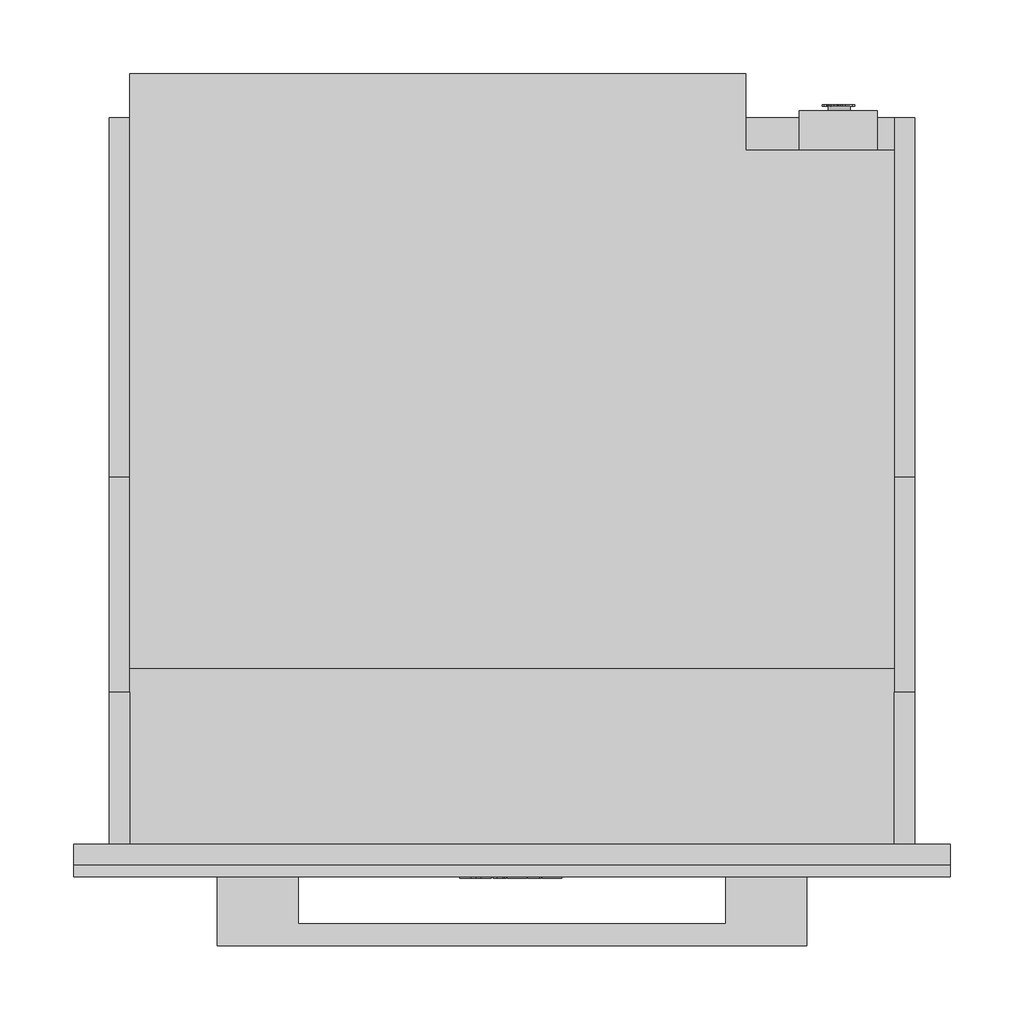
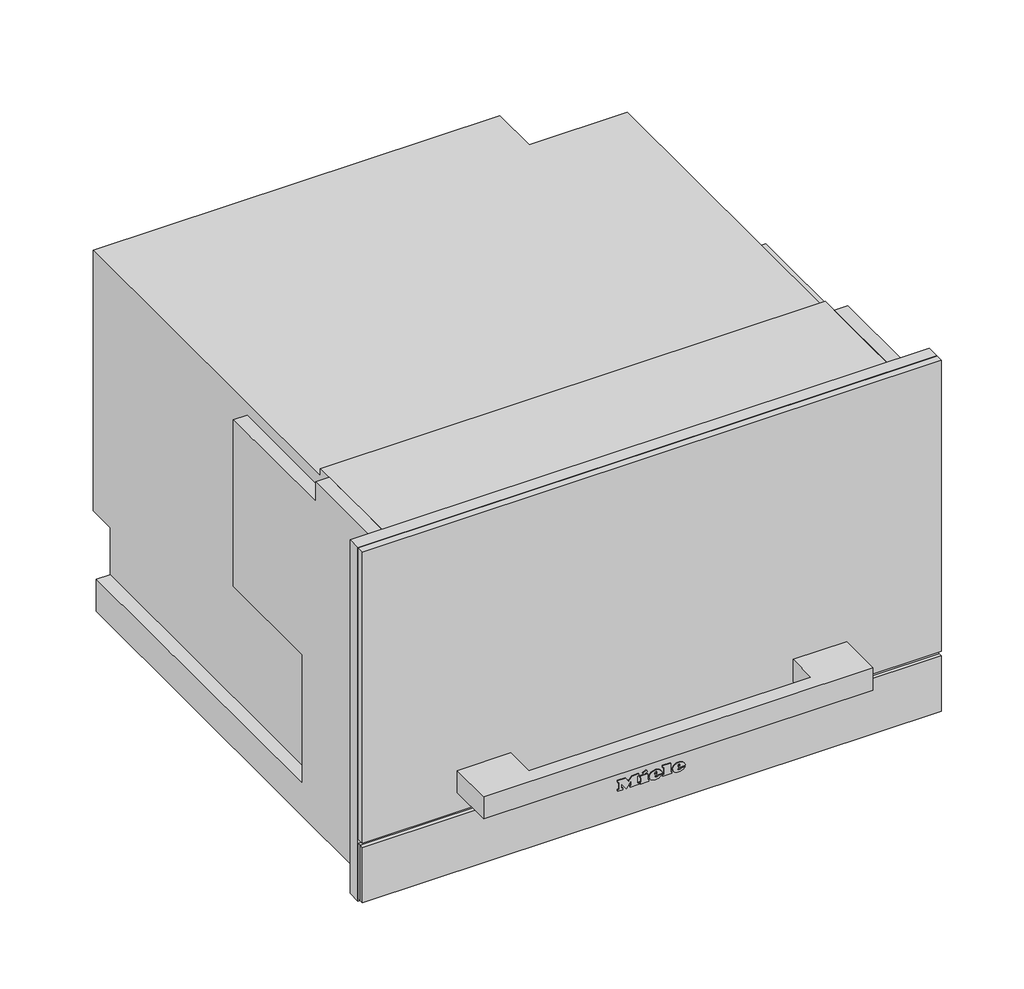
# Not in any storey: 1 proxy.
"""IFC4 building model written with IfcOpenShell, lengths in millimetres."""

import ifcopenshell
import ifcopenshell.guid

model = None  # the IFC model being written
_history = None  # IfcOwnerHistory: only IFC2X3 demands one
_inside = {}  # id of a spatial element -> (the spatial element, [elements in it])
_under = {}  # id of a project, library or spatial element -> (it, [spatial elements below it])
_declared = {}  # id of a project -> (the project, [libraries it declares])
_typed = {}  # id of a type object -> (the type object, [elements of that type])
_made_of = {}  # id of a material, layer set ... -> (it, [elements and type objects made of it])


def new_model(schema):
    """Start an empty IFC model of exactly this schema.

    Asked for "IFC4X3", IfcOpenShell would pick the latest addendum, in which some entities
    have other attributes; the version numbers below select the first issue.
    IFC2X3 requires an IfcOwnerHistory on every rooted entity: one is made here for all.
    """
    global model, _history
    if schema == "IFC4X3":
        model = ifcopenshell.file(schema_version=(4, 3, 0, 0))
    else:
        model = ifcopenshell.file(schema=schema)
    _inside.clear()
    _under.clear()
    _declared.clear()
    _typed.clear()
    _made_of.clear()
    _history = None
    if model.schema == "IFC2X3":
        org = make("IfcOrganization", Name="unknown")
        user = make(
            "IfcPersonAndOrganization",
            ThePerson=make("IfcPerson", FamilyName="unknown"),
            TheOrganization=org,
        )
        app = make(
            "IfcApplication",
            ApplicationDeveloper=org,
            Version="unknown",
            ApplicationFullName="unknown",
            ApplicationIdentifier="unknown",
        )
        _history = make(
            "IfcOwnerHistory",
            OwningUser=user,
            OwningApplication=app,
            ChangeAction="ADDED",
            CreationDate=0,
        )
    return model


def make(cls, **values):
    """One entity of the class cls with the attributes given. An attribute that is None is left unset."""
    return model.create_entity(
        cls, **{name: value for name, value in values.items() if value is not None}
    )


def rooted(cls, **values):
    """An entity with a GlobalId (a new one), such as an element, a storey or a relation."""
    return make(cls, GlobalId=ifcopenshell.guid.new(), OwnerHistory=_history, **values)


def si_unit(unit_type, name, prefix=None):
    """IfcSIUnit, for example si_unit("LENGTHUNIT", "METRE", prefix="MILLI")."""
    return make("IfcSIUnit", UnitType=unit_type, Prefix=prefix, Name=name)


def assignment(units):
    """IfcUnitAssignment: the units of a project."""
    return None if units is None else make("IfcUnitAssignment", Units=units)


def point(xyz):
    """IfcCartesianPoint."""
    return None if xyz is None else make("IfcCartesianPoint", Coordinates=xyz)


def direction(xyz):
    """IfcDirection."""
    return None if xyz is None else make("IfcDirection", DirectionRatios=xyz)


def frame(location, z_axis=None, x_axis=None):
    """IfcAxis2Placement3D, a coordinate frame: its origin and axes. An axis left out is left unset."""
    return make(
        "IfcAxis2Placement3D",
        Location=point(location),
        Axis=direction(z_axis),
        RefDirection=direction(x_axis),
    )


def frame_2d(location, x_axis=None):
    """IfcAxis2Placement2D, a coordinate frame in the plane: its origin and x axis."""
    return make(
        "IfcAxis2Placement2D", Location=point(location), RefDirection=direction(x_axis)
    )


def origin():
    """The frame at (0, 0, 0) with its axes left unset."""
    return frame((0.0, 0.0, 0.0))


def place(relative_to, where):
    """IfcLocalPlacement: puts the frame where relative to a parent placement (None: the world)."""
    return make(
        "IfcLocalPlacement", PlacementRelTo=relative_to, RelativePlacement=where
    )


def context(
    kind, dimensions, precision=None, world=None, true_north=None, identifier=None
):
    """IfcGeometricRepresentationContext, for example the 3D "Model" context."""
    return make(
        "IfcGeometricRepresentationContext",
        ContextIdentifier=identifier,
        ContextType=kind,
        CoordinateSpaceDimension=dimensions,
        Precision=precision,
        WorldCoordinateSystem=world,
        TrueNorth=true_north,
    )


def project(units=None, contexts=None):
    """IfcProject with its units and contexts."""
    return rooted(
        "IfcProject",
        Name="project",
        RepresentationContexts=contexts,
        UnitsInContext=assignment(units),
    )


def spatial(cls, under=None, at=None, **own):
    """A site, building, storey or space (cls), placed at a placement, below another one or the project."""
    s = rooted(cls, ObjectPlacement=at, **own)
    if under is not None:
        _under.setdefault(under.id(), (under, []))[1].append(s)
    return s


def polyline(points):
    """IfcPolyline through the points."""
    return make("IfcPolyline", Points=[point(p) for p in points])


def circle_curve(where, radius):
    """IfcCircle in the frame where."""
    return make("IfcCircle", Position=where, Radius=radius)


def ellipse_curve(where, semi_axis1, semi_axis2):
    """IfcEllipse in the frame where."""
    return make(
        "IfcEllipse", Position=where, SemiAxis1=semi_axis1, SemiAxis2=semi_axis2
    )


def trimmed(basis, trim1, trim2, sense, master):
    """IfcTrimmedCurve: the piece of a basis curve between two trims."""
    return make(
        "IfcTrimmedCurve",
        BasisCurve=basis,
        Trim1=trim1,
        Trim2=trim2,
        SenseAgreement=sense,
        MasterRepresentation=master,
    )


def segment(curve, same_sense, transition):
    """IfcCompositeCurveSegment."""
    return make(
        "IfcCompositeCurveSegment",
        Transition=transition,
        SameSense=same_sense,
        ParentCurve=curve,
    )


def composite_curve(segments, self_intersect=None):
    """IfcCompositeCurve: segments joined end to end."""
    return make("IfcCompositeCurve", Segments=segments, SelfIntersect=self_intersect)


def outline(outer, holes=None, kind="AREA"):
    """IfcArbitraryClosedProfileDef: a profile drawn as a closed curve; with holes, ...WithVoids."""
    if holes is None:
        return make("IfcArbitraryClosedProfileDef", ProfileType=kind, OuterCurve=outer)
    return make(
        "IfcArbitraryProfileDefWithVoids",
        ProfileType=kind,
        OuterCurve=outer,
        InnerCurves=holes,
    )


def extrude(swept, where, along, depth):
    """IfcExtrudedAreaSolid: the profile swept, set in the frame where, extruded along a direction by depth."""
    return make(
        "IfcExtrudedAreaSolid",
        SweptArea=swept,
        Position=where,
        ExtrudedDirection=direction(along),
        Depth=depth,
    )


def faces_of(points, faces, orient=None, outer=None):
    """IfcFace entities. A face is a list of loops; a loop is a list of indices into points, from 0.

    orient and outer hold one flag for each loop. By default every Orientation is true, the
    first loop of a face is its IfcFaceOuterBound and the others are IfcFaceBound.
    """
    made = []
    for i, loops in enumerate(faces):
        bounds = []
        for j, loop in enumerate(loops):
            is_outer = j == 0 if outer is None else outer[i][j]
            bounds.append(
                make(
                    "IfcFaceOuterBound" if is_outer else "IfcFaceBound",
                    Bound=make("IfcPolyLoop", Polygon=[points[k] for k in loop]),
                    Orientation=True if orient is None else orient[i][j],
                )
            )
        made.append(make("IfcFace", Bounds=bounds))
    return made


def faceted_brep(points, faces, orient=None, outer=None, voids=None):
    """IfcFacetedBrep: a solid bounded by flat faces; with voids (closed shells), ...WithVoids."""
    shared = [point(p) for p in points]
    hull = make("IfcClosedShell", CfsFaces=faces_of(shared, faces, orient, outer))
    if voids is None:
        return make("IfcFacetedBrep", Outer=hull)
    return make(
        "IfcFacetedBrepWithVoids",
        Outer=hull,
        Voids=[
            make(cls, CfsFaces=faces_of(shared, fs, o, b)) for cls, fs, o, b in voids
        ],
    )


def shape(context_of_items, identifier, shape_type, items):
    """IfcShapeRepresentation: the items that make up one representation, for example the "Body"."""
    return make(
        "IfcShapeRepresentation",
        ContextOfItems=context_of_items,
        RepresentationIdentifier=identifier,
        RepresentationType=shape_type,
        Items=items,
    )


def source(mapping_origin, context_of_items, identifier, shape_type, items):
    """IfcRepresentationMap: a shape defined once, which mapped items show again and again."""
    return make(
        "IfcRepresentationMap",
        MappingOrigin=mapping_origin,
        MappedRepresentation=shape(context_of_items, identifier, shape_type, items),
    )


def transform(
    local_origin,
    x_axis=None,
    y_axis=None,
    z_axis=None,
    scale=None,
    scale2=None,
    scale3=None,
    uniform=True,
):
    """IfcCartesianTransformationOperator3D, or its non-uniform kind. x_axis, y_axis, z_axis: its Axis1, 2, 3."""
    if uniform:
        return make(
            "IfcCartesianTransformationOperator3D",
            Axis1=direction(x_axis),
            Axis2=direction(y_axis),
            LocalOrigin=point(local_origin),
            Scale=scale,
            Axis3=direction(z_axis),
        )
    return make(
        "IfcCartesianTransformationOperator3DnonUniform",
        Axis1=direction(x_axis),
        Axis2=direction(y_axis),
        LocalOrigin=point(local_origin),
        Scale=scale,
        Axis3=direction(z_axis),
        Scale2=scale2,
        Scale3=scale3,
    )


def mapped(mapping_source, mapping_target):
    """IfcMappedItem: shows the shape of a source again, moved by a transform."""
    return make(
        "IfcMappedItem", MappingSource=mapping_source, MappingTarget=mapping_target
    )


def made_of(thing, what):
    """Note that an element or type object is made of a material, layer set ...; save() writes the relation."""
    if what is not None:
        _made_of.setdefault(what.id(), (what, []))[1].append(thing)
    return thing


def element(
    cls,
    number,
    at=None,
    inside=None,
    cuts=None,
    type_object=None,
    material=None,
    context=None,
    identifier="Body",
    shape_type=None,
    held_by="IfcProductDefinitionShape",
    body=None,
    shapes=None,
    **own,
):
    """One element of the class cls, such as IfcWall. Its Tag is "e" and its number.

    at: its placement. inside: the storey or other place that contains it. cuts: it is an
    opening in that element (IfcRelVoidsElement). A single representation is given by context,
    identifier, shape_type and body (its items); several are given by shapes. held_by: the class
    of the entity that holds the representations. save() writes the other relations.
    """
    e = rooted(cls, Tag="e%d" % number, ObjectPlacement=at, **own)
    if body is not None:
        shapes = [shape(context, identifier, shape_type, body)]
    if shapes is not None:
        e.Representation = make(held_by, Representations=shapes)
    if inside is not None:
        _inside.setdefault(inside.id(), (inside, []))[1].append(e)
    if cuts is not None:
        rooted(
            "IfcRelVoidsElement", RelatingBuildingElement=cuts, RelatedOpeningElement=e
        )
    if type_object is not None:
        _typed.setdefault(type_object.id(), (type_object, []))[1].append(e)
    return made_of(e, material)


def aggregate(whole, parts):
    """IfcRelAggregates: a whole, such as a stair, and the parts it consists of."""
    return rooted("IfcRelAggregates", RelatingObject=whole, RelatedObjects=parts)


def save(model, path):
    """Write the relations noted so far, then the file.

    IfcRelAggregates (storeys below a building ...), IfcRelContainedInSpatialStructure (elements
    in a storey), IfcRelDefinesByType, IfcRelAssociatesMaterial and IfcRelDeclares: one each for
    every whole, place, type object, material and project.
    """
    for whole, parts in _under.values():
        aggregate(whole, parts)
    for where, things in _inside.values():
        rooted(
            "IfcRelContainedInSpatialStructure",
            RelatedElements=things,
            RelatingStructure=where,
        )
    for kind, things in _typed.values():
        rooted("IfcRelDefinesByType", RelatedObjects=things, RelatingType=kind)
    for what, things in _made_of.values():
        rooted("IfcRelAssociatesMaterial", RelatedObjects=things, RelatingMaterial=what)
    for by, libraries in _declared.values():
        rooted("IfcRelDeclares", RelatingContext=by, RelatedDefinitions=libraries)
    model.write(path)


def plane_surface(at):
    """IfcPlane: the flat surface through the origin of the frame at, square to its z axis."""
    return make("IfcPlane", Position=at)


def cylinder_surface(at, radius):
    """IfcCylindricalSurface: all points at the distance radius from the z axis of the frame at."""
    return make("IfcCylindricalSurface", Position=at, Radius=radius)


def revolved_surface(curve, axis_point, axis_direction):
    """IfcSurfaceOfRevolution: the curve turned about the line through axis_point along axis_direction."""
    return make(
        "IfcSurfaceOfRevolution",
        SweptCurve=make("IfcArbitraryOpenProfileDef", ProfileType="CURVE", Curve=curve),
        AxisPosition=make("IfcAxis1Placement", Location=point(axis_point), Axis=direction(axis_direction)),
    )


def extruded_surface(curve, direction_of_extrusion, depth):
    """IfcSurfaceOfLinearExtrusion: the curve pushed along a direction by depth."""
    return make(
        "IfcSurfaceOfLinearExtrusion",
        SweptCurve=make("IfcArbitraryOpenProfileDef", ProfileType="CURVE", Curve=curve),
        ExtrudedDirection=direction(direction_of_extrusion),
        Depth=depth,
    )


def advanced_brep(points, edges, surfaces, faces):
    """IfcAdvancedBrep: a solid bounded by faces that lie on surfaces and meet in shared edges.

    An edge is (start, end): straight between two places in points (the first is 0);
    or (start, end, curve); or (start, end, curve, False) where it runs against its curve.
    A face is (place in surfaces, loops), or (place, loops, False) where it looks against
    its surface's normal. A loop lists edges by number (the first is 1), with a minus sign
    where the edge is run from its end to its start. The first loop is the outer one.
    """
    corners = [point(p) for p in points]
    vertices = [make("IfcVertexPoint", VertexGeometry=c) for c in corners]
    made = []
    for start, end, *more in edges:
        made.append(
            make(
                "IfcEdgeCurve",
                EdgeStart=vertices[start],
                EdgeEnd=vertices[end],
                EdgeGeometry=more[0] if more else make("IfcPolyline", Points=[corners[start], corners[end]]),
                SameSense=more[1] if len(more) > 1 else True,
            )
        )
    hull = []
    for where, loops, *sense in faces:
        bounds = []
        for j, loop in enumerate(loops):
            ring = [make("IfcOrientedEdge", EdgeElement=made[abs(k) - 1], Orientation=k > 0) for k in loop]
            bounds.append(
                make(
                    "IfcFaceOuterBound" if j == 0 else "IfcFaceBound",
                    Bound=make("IfcEdgeLoop", EdgeList=ring),
                    Orientation=True,
                )
            )
        hull.append(make("IfcAdvancedFace", Bounds=bounds, FaceSurface=surfaces[where], SameSense=sense[0] if sense else True))
    return make("IfcAdvancedBrep", Outer=make("IfcClosedShell", CfsFaces=hull))


def specialty_equipment_248093d5(model_context):
    return source(origin(), model_context, "Body", "SolidModel", [
        advanced_brep(
        [(26.2998, -23.0, 36.7018), (26.2998, -23.0, 37.8532), (33.9264, -23.0, 37.8532), (20.6568, -23.0, 37.8532), (23.7918, -23.0, 34.0), (33.7326, -23.0, 36.7018), (30.2898, -23.0, 36.7018), (27.5766, -23.0, 35.425), (26.2998, -23.0, 39.3124), (26.2998, -23.0, 40.555), (28.2492, -23.0, 40.555), (28.2492, -23.0, 39.3124), (26.2998, -22.0, 36.7018), (27.5766, -22.0, 35.425), (30.2898, -22.0, 36.7018), (33.7326, -22.0, 36.7018), (23.7918, -22.0, 34.0), (20.6568, -22.0, 37.8532), (33.9264, -22.0, 37.8532), (26.2998, -22.0, 37.8532), (26.2998, -22.0, 39.3124), (28.2492, -22.0, 39.3124), (28.2492, -22.0, 40.555), (26.2998, -22.0, 40.555)],
        [
            (0, 1),
            (1, 2),
            (2, 3, ellipse_curve(frame((27.2916, -23.0, 37.8532), z_axis=(0.0, -1.0, 0.0), x_axis=(-1.0, 0.0, 0.0)), 6.6348, 5.4834)),
            (3, 4, circle_curve(frame((25.0686622, -23.0, 38.2408), z_axis=(0.0, -1.0, 0.0), x_axis=(0.0, 0.0, -1.0)), 4.4288556)),
            (4, 5, circle_curve(frame((27.1587808, -23.0, 41.2504), z_axis=(0.0, -1.0, 0.0), x_axis=(0.0, 0.0, -1.0)), 7.9940516)),
            (5, 6),
            (6, 7, circle_curve(frame((28.1338588, -23.0, 37.762), z_axis=(0.0, 1.0, 0.0), x_axis=(0.0, 0.0, -1.0)), 2.4025208)),
            (7, 0, circle_curve(frame((27.5766, -23.0, 36.7018), z_axis=(0.0, 1.0, 0.0), x_axis=(0.0, 0.0, -1.0)), 1.2768)),
            (8, 9),
            (9, 10, circle_curve(frame((27.2745, -23.0, 40.555), z_axis=(0.0, 1.0, 0.0), x_axis=(0.0, 0.0, -1.0)), 0.9747)),
            (10, 11),
            (11, 8),
            (12, 13, circle_curve(frame((27.5766, -22.0, 36.7018), z_axis=(0.0, -1.0, 0.0), x_axis=(0.0, 0.0, -1.0)), 1.2768)),
            (13, 14, circle_curve(frame((28.1338588, -22.0, 37.762), z_axis=(0.0, -1.0, 0.0), x_axis=(0.0, 0.0, -1.0)), 2.4025208)),
            (14, 15),
            (15, 16, circle_curve(frame((27.1587808, -22.0, 41.2504), z_axis=(0.0, 1.0, 0.0), x_axis=(0.0, 0.0, -1.0)), 7.9940516)),
            (16, 17, circle_curve(frame((25.0686622, -22.0, 38.2408), z_axis=(0.0, 1.0, 0.0), x_axis=(0.0, 0.0, -1.0)), 4.4288556)),
            (17, 18, ellipse_curve(frame((27.2916, -22.0, 37.8532), z_axis=(0.0, 1.0, 0.0), x_axis=(-1.0, 0.0, 0.0)), 6.6348, 5.4834)),
            (18, 19),
            (19, 12),
            (20, 21),
            (21, 22),
            (22, 23, circle_curve(frame((27.2745, -22.0, 40.555), z_axis=(0.0, -1.0, 0.0), x_axis=(0.0, 0.0, -1.0)), 0.9747)),
            (23, 20),
            (0, 12),
            (19, 1),
            (18, 2),
            (5, 15),
            (14, 6),
            (17, 3),
            (13, 7),
            (16, 4),
            (8, 20),
            (23, 9),
            (22, 10),
            (21, 11),
        ],
        [
            plane_surface(frame((26.2998, -23.0, 37.8532), z_axis=(0.0, -1.0, 0.0), x_axis=(0.0, 0.0, 1.0))),
            plane_surface(frame((26.2998, -22.0, 37.8532), z_axis=(0.0, 1.0, 0.0), x_axis=(0.0, 0.0, -1.0))),
            plane_surface(frame((26.2998, -23.0, 36.7018), z_axis=(1.0, 0.0, 0.0), x_axis=(0.0, 1.0, 0.0))),
            plane_surface(frame((26.2998, -23.0, 37.8532), z_axis=(0.0, 0.0, -1.0), x_axis=(0.0, 1.0, 0.0))),
            plane_surface(frame((33.7326, -23.0, 36.7018), z_axis=(0.0, 0.0, 1.0), x_axis=(0.0, 1.0, 0.0))),
            extruded_surface(trimmed(ellipse_curve(frame((27.2916, -21.0, 37.8532), z_axis=(0.0, -1.0, 0.0), x_axis=(-1.0, 0.0, 0.0)), 6.6348, 5.4834), [point((33.9264, -21.0, 37.8532))], [point((20.6568, -21.0, 37.8532))], True, "CARTESIAN"), (0.0, -1.0, 0.0), 1.0),
            revolved_surface(polyline([(28.1338588, -22.0, 35.3594792), (28.1338588, -23.0, 35.3594792)]), (28.1338588, -22.0, 37.762), (0.0, 1.0, 0.0)),
            revolved_surface(polyline([(27.5766, -22.0, 35.425), (27.5766, -23.0, 35.425)]), (27.5766, -22.0, 36.7018), (0.0, 1.0, 0.0)),
            cylinder_surface(frame((25.0686622, -22.0, 38.2408), z_axis=(0.0, -1.0, 0.0), x_axis=(0.0, 0.0, -1.0)), 4.4288556),
            cylinder_surface(frame((27.1587808, -22.0, 41.2504), z_axis=(0.0, -1.0, 0.0), x_axis=(0.0, 0.0, -1.0)), 7.9940516),
            plane_surface(frame((26.2998, -23.0, 39.3124), z_axis=(1.0, 0.0, 0.0), x_axis=(0.0, 1.0, 0.0))),
            revolved_surface(polyline([(27.2745, -22.0, 39.5803), (27.2745, -23.0, 39.5803)]), (27.2745, -22.0, 40.555), (0.0, 1.0, 0.0)),
            plane_surface(frame((28.2492, -23.0, 40.555), z_axis=(-1.0, 0.0, 0.0), x_axis=(0.0, 1.0, 0.0))),
            plane_surface(frame((28.2492, -23.0, 39.3124), z_axis=(0.0, 0.0, 1.0), x_axis=(0.0, 1.0, 0.0))),
        ],
        [
            (0, [[1, 2, 3, 4, 5, 6, 7, 8], [9, 10, 11, 12]]),
            (1, [[13, 14, 15, 16, 17, 18, 19, 20], [21, 22, 23, 24]]),
            (2, [[-1, 25, -20, 26]]),
            (3, [[-2, -26, -19, 27]]),
            (4, [[-6, 28, -15, 29]]),
            (5, [[-3, -27, -18, 30]]),
            (6, [[-7, -29, -14, 31]]),
            (7, [[-8, -31, -13, -25]]),
            (8, [[-4, -30, -17, 32]]),
            (9, [[-5, -32, -16, -28]]),
            (10, [[-9, 33, -24, 34]]),
            (11, [[-10, -34, -23, 35]]),
            (12, [[-11, -35, -22, 36]]),
            (13, [[-12, -36, -21, -33]]),
        ],
    ),
        advanced_brep(
        [(2.508, -23.0, 36.7018), (2.508, -23.0, 37.8532), (10.1346, -23.0, 37.8532), (-3.135, -23.0, 37.8532), (0.0, -23.0, 34.0), (9.9408, -23.0, 36.7018), (6.498, -23.0, 36.7018), (3.7848, -23.0, 35.425), (2.508, -23.0, 39.3124), (2.508, -23.0, 40.555), (4.4574, -23.0, 40.555), (4.4574, -23.0, 39.3124), (2.508, -22.0, 36.7018), (3.7848, -22.0, 35.425), (6.498, -22.0, 36.7018), (9.9408, -22.0, 36.7018), (0.0, -22.0, 34.0), (-3.135, -22.0, 37.8532), (10.1346, -22.0, 37.8532), (2.508, -22.0, 37.8532), (2.508, -22.0, 39.3124), (4.4574, -22.0, 39.3124), (4.4574, -22.0, 40.555), (2.508, -22.0, 40.555)],
        [
            (0, 1),
            (1, 2),
            (2, 3, ellipse_curve(frame((3.4998, -23.0, 37.8532), z_axis=(0.0, -1.0, 0.0), x_axis=(-1.0, 0.0, 0.0)), 6.6348, 5.4834)),
            (3, 4, circle_curve(frame((1.2768622, -23.0, 38.2408), z_axis=(0.0, -1.0, 0.0), x_axis=(0.0, 0.0, -1.0)), 4.4288556)),
            (4, 5, circle_curve(frame((3.3669808, -23.0, 41.2504), z_axis=(0.0, -1.0, 0.0), x_axis=(0.0, 0.0, -1.0)), 7.9940516)),
            (5, 6),
            (6, 7, circle_curve(frame((4.3420588, -23.0, 37.762), z_axis=(0.0, 1.0, 0.0), x_axis=(0.0, 0.0, -1.0)), 2.4025208)),
            (7, 0, circle_curve(frame((3.7848, -23.0, 36.7018), z_axis=(0.0, 1.0, 0.0), x_axis=(0.0, 0.0, -1.0)), 1.2768)),
            (8, 9),
            (9, 10, circle_curve(frame((3.4827, -23.0, 40.555), z_axis=(0.0, 1.0, 0.0), x_axis=(0.0, 0.0, -1.0)), 0.9747)),
            (10, 11),
            (11, 8),
            (12, 13, circle_curve(frame((3.7848, -22.0, 36.7018), z_axis=(0.0, -1.0, 0.0), x_axis=(0.0, 0.0, -1.0)), 1.2768)),
            (13, 14, circle_curve(frame((4.3420588, -22.0, 37.762), z_axis=(0.0, -1.0, 0.0), x_axis=(0.0, 0.0, -1.0)), 2.4025208)),
            (14, 15),
            (15, 16, circle_curve(frame((3.3669808, -22.0, 41.2504), z_axis=(0.0, 1.0, 0.0), x_axis=(0.0, 0.0, -1.0)), 7.9940516)),
            (16, 17, circle_curve(frame((1.2768622, -22.0, 38.2408), z_axis=(0.0, 1.0, 0.0), x_axis=(0.0, 0.0, -1.0)), 4.4288556)),
            (17, 18, ellipse_curve(frame((3.4998, -22.0, 37.8532), z_axis=(0.0, 1.0, 0.0), x_axis=(-1.0, 0.0, 0.0)), 6.6348, 5.4834)),
            (18, 19),
            (19, 12),
            (20, 21),
            (21, 22),
            (22, 23, circle_curve(frame((3.4827, -22.0, 40.555), z_axis=(0.0, -1.0, 0.0), x_axis=(0.0, 0.0, -1.0)), 0.9747)),
            (23, 20),
            (0, 12),
            (19, 1),
            (18, 2),
            (5, 15),
            (14, 6),
            (17, 3),
            (13, 7),
            (16, 4),
            (8, 20),
            (23, 9),
            (22, 10),
            (21, 11),
        ],
        [
            plane_surface(frame((2.508, -23.0, 37.8532), z_axis=(0.0, -1.0, 0.0), x_axis=(0.0, 0.0, 1.0))),
            plane_surface(frame((2.508, -22.0, 37.8532), z_axis=(0.0, 1.0, 0.0), x_axis=(0.0, 0.0, -1.0))),
            plane_surface(frame((2.508, -23.0, 36.7018), z_axis=(1.0, 0.0, 0.0), x_axis=(0.0, 1.0, 0.0))),
            plane_surface(frame((2.508, -23.0, 37.8532), z_axis=(0.0, 0.0, -1.0), x_axis=(0.0, 1.0, 0.0))),
            plane_surface(frame((9.9408, -23.0, 36.7018), z_axis=(0.0, 0.0, 1.0), x_axis=(0.0, 1.0, 0.0))),
            extruded_surface(trimmed(ellipse_curve(frame((3.4998, -21.0, 37.8532), z_axis=(0.0, -1.0, 0.0), x_axis=(-1.0, 0.0, 0.0)), 6.6348, 5.4834), [point((10.1346, -21.0, 37.8532))], [point((-3.135, -21.0, 37.8532))], True, "CARTESIAN"), (0.0, -1.0, 0.0), 1.0),
            revolved_surface(polyline([(4.3420588, -22.0, 35.3594792), (4.3420588, -23.0, 35.3594792)]), (4.3420588, -22.0, 37.762), (0.0, 1.0, 0.0)),
            revolved_surface(polyline([(3.7848, -22.0, 35.425), (3.7848, -23.0, 35.425)]), (3.7848, -22.0, 36.7018), (0.0, 1.0, 0.0)),
            cylinder_surface(frame((1.2768622, -22.0, 38.2408), z_axis=(0.0, -1.0, 0.0), x_axis=(0.0, 0.0, -1.0)), 4.4288556),
            cylinder_surface(frame((3.3669808, -22.0, 41.2504), z_axis=(0.0, -1.0, 0.0), x_axis=(0.0, 0.0, -1.0)), 7.9940516),
            plane_surface(frame((2.508, -23.0, 39.3124), z_axis=(1.0, 0.0, 0.0), x_axis=(0.0, 1.0, 0.0))),
            revolved_surface(polyline([(3.4827, -22.0, 39.5803), (3.4827, -23.0, 39.5803)]), (3.4827, -22.0, 40.555), (0.0, 1.0, 0.0)),
            plane_surface(frame((4.4574, -23.0, 40.555), z_axis=(-1.0, 0.0, 0.0), x_axis=(0.0, 1.0, 0.0))),
            plane_surface(frame((4.4574, -23.0, 39.3124), z_axis=(0.0, 0.0, 1.0), x_axis=(0.0, 1.0, 0.0))),
        ],
        [
            (0, [[1, 2, 3, 4, 5, 6, 7, 8], [9, 10, 11, 12]]),
            (1, [[13, 14, 15, 16, 17, 18, 19, 20], [21, 22, 23, 24]]),
            (2, [[-1, 25, -20, 26]]),
            (3, [[-2, -26, -19, 27]]),
            (4, [[-6, 28, -15, 29]]),
            (5, [[-3, -27, -18, 30]]),
            (6, [[-7, -29, -14, 31]]),
            (7, [[-8, -31, -13, -25]]),
            (8, [[-4, -30, -17, 32]]),
            (9, [[-5, -32, -16, -28]]),
            (10, [[-9, 33, -24, 34]]),
            (11, [[-10, -34, -23, 35]]),
            (12, [[-11, -35, -22, 36]]),
            (13, [[-12, -36, -21, -33]]),
        ],
    ),
        extrude(outline(polyline([(44.7274, -9.9522), (42.8806, -9.0858), (44.6818, -5.2212), (46.5286, -6.0762), (44.7274, -9.9522)])), frame((0.0, -23.0, 0.0), z_axis=(0.0, 1.0, 0.0), x_axis=(0.0, 0.0, 1.0)), (0.0, 0.0, 1.0), 1.0),
        extrude(outline(polyline([(42.6298, -12.768), (40.5892, -12.768), (40.5892, -11.4114), (35.9152, -11.4114), (35.9152, -12.768), (34.0, -12.768), (34.0, -3.7734), (35.9152, -3.7734), (35.9152, -5.0958), (42.6298, -5.0958), (42.6298, -12.768)])), frame((0.0, -23.0, 0.0), z_axis=(0.0, 1.0, 0.0), x_axis=(0.0, 0.0, 1.0)), (0.0, 0.0, 1.0), 1.0),
        extrude(outline(polyline([(43.5418, 10.773), (43.5418, 12.141), (35.9152, 12.141), (35.9152, 10.773), (34.0, 10.773), (34.0, 20.0184), (35.9152, 20.0184), (35.9152, 18.6162), (45.4, 18.6162), (45.4, 10.773), (43.5418, 10.773)])), frame((0.0, -23.0, 0.0), z_axis=(0.0, 1.0, 0.0), x_axis=(0.0, 0.0, 1.0)), (0.0, 0.0, 1.0), 1.0),
        extrude(outline(polyline([(43.5418, -35.4882), (43.5418, -34.1088), (35.9152, -34.1088), (35.9152, -35.4882), (34.0, -35.4882), (34.0, -30.4722), (35.9152, -30.4722), (35.9152, -31.8402), (40.7429247, -31.8402), (34.0, -26.7444), (40.9402223, -21.6258), (35.9152, -21.6258), (35.9152, -23.028), (34.0, -23.028), (34.0, -13.9308), (35.9152, -13.9308), (35.9152, -15.3786), (43.5418, -15.3786), (43.5418, -13.9308), (45.4, -13.9308), (45.4, -20.8734), (41.125, -24.2022), (45.4, -27.5424), (45.4, -35.4882), (43.5418, -35.4882)])), frame((0.0, -23.0, 0.0), z_axis=(0.0, 1.0, 0.0), x_axis=(0.0, 0.0, 1.0)), (0.0, 0.0, 1.0), 1.0),
        extrude(outline(polyline([(385.0, 297.5), (385.0, -297.5), (1.0, -297.5), (1.0, 297.5), (385.0, 297.5)]), holes=[polyline([(376.0, 271.5), (55.0, 271.5), (55.0, -271.5), (376.0, -271.5), (376.0, 271.5)])]), frame((0.0, -14.0, 0.0), z_axis=(0.0, 1.0, 0.0), x_axis=(0.0, 0.0, 1.0)), (0.0, 0.0, 1.0), 14.0),
        extrude(outline(polyline([(-297.5, -18.0), (297.5, -18.0), (297.5, -22.0), (-297.5, -22.0), (-297.5, -18.0)])), frame((0.0, 0.0, 4.0), z_axis=(0.0, 0.0, 1.0), x_axis=(1.0, 0.0, 0.0)), (0.0, 0.0, 1.0), 60.0),
        extrude(outline(polyline([(-297.5, -14.0), (297.5, -14.0), (297.5, -18.0), (-297.5, -18.0), (-297.5, -14.0)])), frame((0.0, 0.0, 4.0), z_axis=(0.0, 0.0, 1.0), x_axis=(1.0, 0.0, 0.0)), (0.0, 0.0, 1.0), 60.0),
        extrude(outline(composite_curve([segment(trimmed(circle_curve(frame_2d((220.0, -56.0)), 142.0), [point((220.0, 86.0))], [point((220.0, -198.0))], False, "CARTESIAN"), True, "CONTINUOUS"), segment(trimmed(circle_curve(frame_2d((220.0, -56.0)), 142.0), [point((220.0, -198.0))], [point((220.0, 86.0))], False, "CARTESIAN"), True, "CONTINUOUS")], self_intersect=False), holes=[composite_curve([segment(trimmed(circle_curve(frame_2d((220.0, -56.0)), 130.0), [point((220.0, 74.0))], [point((220.0, -186.0))], True, "CARTESIAN"), True, "CONTINUOUS"), segment(trimmed(circle_curve(frame_2d((220.0, -56.0)), 130.0), [point((220.0, -186.0))], [point((220.0, 74.0))], True, "CARTESIAN"), True, "CONTINUOUS")], self_intersect=False)]), frame((0.0, 73.0, 0.0), z_axis=(0.0, 1.0, 0.0), x_axis=(0.0, 0.0, 1.0)), (0.0, 0.0, 1.0), 27.0),
        extrude(outline(polyline([(135.3565747, 500.0), (134.220051, 503.1225733), (130.1009663, 503.1225733), (128.9644426, 500.0), (127.6142523, 500.0), (131.587748, 510.0), (132.7133829, 510.0), (136.6813016, 500.0), (135.3565747, 500.0)]), holes=[polyline([(133.7362065, 504.4519252), (132.1605087, 508.7811193), (130.5848109, 504.4519252), (133.7362065, 504.4519252)])]), frame((0.0, 0.0, 55.0), z_axis=(0.0, 0.0, 1.0), x_axis=(1.0, 0.0, 0.0)), (0.0, 0.0, 1.0), 1.0),
        extrude(outline(polyline([(125.9185787, 510.0), (127.1760447, 510.0), (124.4705666, 500.0), (122.9432999, 500.0), (120.3689708, 508.830311), (117.6245927, 500.0), (116.2783886, 500.0), (113.5302279, 510.0549623), (114.836363, 510.0549623), (116.9115224, 501.4130168), (119.4406083, 510.0471338), (121.3085745, 510.0471338), (123.8274276, 501.4071134), (125.9185787, 510.0)])), frame((0.0, 0.0, 55.0), z_axis=(0.0, 0.0, 1.0), x_axis=(1.0, 0.0, 0.0)), (0.0, 0.0, 1.0), 1.0),
        extrude(outline(polyline([(241.3772603, 474.0), (234.0, 474.0), (234.0, 475.2557039), (240.1215564, 475.2557039), (240.1215564, 478.5519266), (234.470889, 478.5519266), (234.470889, 479.8076304), (240.1215564, 479.8076304), (240.1215564, 482.7899271), (234.156963, 482.7899271), (234.156963, 484.045631), (241.3772603, 484.045631), (241.3772603, 474.0)])), frame((0.0, 0.0, 230.0), z_axis=(0.0, 0.0, 1.0), x_axis=(1.0, 0.0, 0.0)), (0.0, 0.0, 1.0), 1.0),
        extrude(outline(polyline([(232.1164442, 474.0), (225.8379248, 474.0), (225.8379248, 475.2557039), (230.8607403, 475.2557039), (230.8607403, 484.045631), (232.1164442, 484.045631), (232.1164442, 474.0)])), frame((0.0, 0.0, 230.0), z_axis=(0.0, 0.0, 1.0), x_axis=(1.0, 0.0, 0.0)), (0.0, 0.0, 1.0), 1.0),
        extrude(outline(polyline([(159.0, 232.51652), (169.045631, 232.51652), (169.045631, 231.2608161), (164.128275, 231.2608161), (169.045631, 226.1104682), (169.045631, 224.3544448), (164.9155425, 228.6782845), (159.0, 224.1974818), (159.0, 225.732776), (164.0669613, 229.5685589), (162.4531857, 231.2608161), (159.0, 231.2608161), (159.0, 232.51652)])), frame((0.0, 501.0, 0.0), z_axis=(0.0, 1.0, 0.0), x_axis=(0.0, 0.0, 1.0)), (0.0, 0.0, 1.0), 1.0),
        extrude(outline(polyline([(159.0, 221.4579872), (169.045631, 224.1974818), (169.045631, 222.9025372), (162.4433755, 221.3132869), (160.4053092, 220.8227776), (162.207931, 220.2979326), (169.045631, 218.3064648), (169.045631, 216.4400768), (164.0890343, 214.9930743), (160.4053092, 213.9164063), (162.3845144, 213.4406122), (169.045631, 211.8366467), (169.045631, 210.5417021), (159.0, 213.2836493), (159.0, 214.6251923), (166.7500474, 217.0335931), (167.8316204, 217.369592), (166.5293182, 217.7472841), (159.0, 219.9423134), (159.0, 221.4579872)])), frame((0.0, 501.0, 0.0), z_axis=(0.0, 1.0, 0.0), x_axis=(0.0, 0.0, 1.0)), (0.0, 0.0, 1.0), 1.0),
        extrude(outline(composite_curve([segment(trimmed(circle_curve(frame_2d((164.0, 222.0)), 7.5), [point((164.0, 229.5))], [point((164.0, 214.5))], False, "CARTESIAN"), True, "CONTINUOUS"), segment(trimmed(circle_curve(frame_2d((164.0, 222.0)), 7.5), [point((164.0, 214.5))], [point((164.0, 229.5))], False, "CARTESIAN"), True, "CONTINUOUS")], self_intersect=False)), frame((0.0, 471.0, 0.0), z_axis=(0.0, 1.0, 0.0), x_axis=(0.0, 0.0, 1.0)), (0.0, 0.0, 1.0), 30.0),
        extrude(outline(composite_curve([segment(trimmed(circle_curve(frame_2d((125.0, 505.0)), 7.5), [point((117.5, 505.0))], [point((132.5, 505.0))], False, "CARTESIAN"), True, "CONTINUOUS"), segment(trimmed(circle_curve(frame_2d((125.0, 505.0)), 7.5), [point((132.5, 505.0))], [point((117.5, 505.0))], False, "CARTESIAN"), True, "CONTINUOUS")], self_intersect=False)), frame((0.0, 0.0, 56.0), z_axis=(0.0, 0.0, 1.0), x_axis=(1.0, 0.0, 0.0)), (0.0, 0.0, 1.0), 30.0),
        extrude(outline(composite_curve([segment(trimmed(circle_curve(frame_2d((234.0, 478.8)), 7.5), [point((226.5, 478.8))], [point((241.5, 478.8))], False, "CARTESIAN"), True, "CONTINUOUS"), segment(trimmed(circle_curve(frame_2d((234.0, 478.8)), 7.5), [point((241.5, 478.8))], [point((226.5, 478.8))], False, "CARTESIAN"), True, "CONTINUOUS")], self_intersect=False)), frame((0.0, 0.0, 231.0), z_axis=(0.0, 0.0, 1.0), x_axis=(1.0, 0.0, 0.0)), (0.0, 0.0, 1.0), 30.0),
        extrude(outline(polyline([(195.0, 498.0), (248.0, 498.0), (248.0, 471.0), (195.0, 471.0), (195.0, 498.0)])), frame((0.0, 0.0, 261.0), z_axis=(0.0, 0.0, 1.0), x_axis=(1.0, 0.0, 0.0)), (0.0, 0.0, 1.0), 84.0),
        faceted_brep([(273.5, 0.0, 0.0), (273.5, 493.0, 0.0), (273.5, 493.0, 35.0), (273.5, 127.0, 35.0), (273.5, 127.0, 175.0), (273.5, 249.0, 175.0), (273.5, 249.0, 356.0), (273.5, 103.0, 356.0), (273.5, 103.0, 377.0), (273.5, 0.0, 377.0), (259.5, 0.0, 377.0), (259.5, 103.0, 377.0), (259.5, 103.0, 356.0), (259.5, 249.0, 356.0), (259.5, 249.0, 175.0), (259.5, 127.0, 175.0), (259.5, 127.0, 35.0), (259.5, 493.0, 35.0), (259.5, 493.0, 0.0), (259.5, 0.0, 0.0), (259.5, 0.0, 55.0), (259.5, 100.0, 55.0), (259.5, 100.0, 376.0), (259.5, 0.0, 376.0), (271.5, 0.0, 376.0), (271.5, 0.0, 55.0), (271.5, 100.0, 55.0), (271.5, 100.0, 376.0)], [[[0, 1, 2, 3, 4, 5, 6, 7, 8, 9]], [[10, 11, 12, 13, 14, 15, 16, 17, 18, 19, 20, 21, 22, 23]], [[1, 0, 19, 18]], [[2, 1, 18, 17]], [[3, 2, 17, 16]], [[4, 3, 16, 15]], [[5, 4, 15, 14]], [[6, 5, 14, 13]], [[7, 6, 13, 12]], [[8, 7, 12, 11]], [[9, 8, 11, 10]], [[0, 9, 10, 23, 24, 25, 20, 19]], [[26, 27, 22, 21]], [[27, 26, 25, 24]], [[26, 21, 20, 25]], [[22, 27, 24, 23]]]),
        faceted_brep([(-273.5, 103.0, 377.0), (-273.5, 103.0, 356.0), (-273.5, 249.0, 356.0), (-273.5, 249.0, 175.0), (-273.5, 127.0, 175.0), (-273.5, 127.0, 35.0), (-273.5, 493.0, 35.0), (-273.5, 493.0, 0.0), (-273.5, 0.0, 0.0), (-273.5, 0.0, 377.0), (-259.5, 103.0, 377.0), (-259.5, 0.0, 377.0), (-259.5, 0.0, 376.0), (-259.5, 100.0, 376.0), (-259.5, 100.0, 55.0), (-259.5, 0.0, 55.0), (-259.5, 0.0, 0.0), (-259.5, 493.0, 0.0), (-259.5, 493.0, 35.0), (-259.5, 127.0, 35.0), (-259.5, 127.0, 175.0), (-259.5, 249.0, 175.0), (-259.5, 249.0, 356.0), (-259.5, 103.0, 356.0), (-271.5, 0.0, 55.0), (-271.5, 0.0, 376.0), (-271.5, 100.0, 376.0), (-271.5, 100.0, 55.0)], [[[0, 1, 2, 3, 4, 5, 6, 7, 8, 9]], [[10, 11, 12, 13, 14, 15, 16, 17, 18, 19, 20, 21, 22, 23]], [[0, 9, 11, 10]], [[9, 8, 16, 15, 24, 25, 12, 11]], [[8, 7, 17, 16]], [[7, 6, 18, 17]], [[6, 5, 19, 18]], [[5, 4, 20, 19]], [[4, 3, 21, 20]], [[3, 2, 22, 21]], [[2, 1, 23, 22]], [[1, 0, 10, 23]], [[26, 27, 14, 13]], [[14, 27, 24, 15]], [[27, 26, 25, 24]], [[26, 13, 12, 25]]]),
        advanced_brep(
        [(259.5, 100.0, 376.0), (-259.5, 100.0, 376.0), (-259.5, 100.0, 55.0), (259.5, 100.0, 55.0), (74.0, 100.0, 220.0), (-186.0, 100.0, 220.0), (-259.5, 0.0, 55.0), (259.5, 0.0, 55.0), (259.5, 0.0, 376.0), (-259.5, 0.0, 376.0), (158.5, 471.0, 369.0), (259.5, 471.0, 369.0), (259.5, 471.0, 88.0), (158.5, 471.0, 88.0), (259.5, 0.0, 377.0), (-259.5, 0.0, 377.0), (-259.5, 0.0, 0.0), (259.5, 0.0, 0.0), (259.5, 493.0, 0.0), (259.5, 493.0, 88.0), (259.5, 119.0, 369.0), (259.5, 119.0, 377.0), (-259.5, 493.0, 0.0), (-259.5, 119.0, 377.0), (-259.5, 119.0, 369.0), (-259.5, 523.0, 369.0), (-259.5, 523.0, 86.0), (-259.5, 493.0, 86.0), (158.5, 523.0, 369.0), (158.5, 523.0, 86.0), (158.5, 493.0, 88.0), (158.5, 493.0, 86.0), (74.0, 438.0, 220.0), (-186.0, 438.0, 220.0)],
        [
            (0, 1),
            (1, 2),
            (2, 3),
            (3, 0),
            (4, 5, circle_curve(frame((-56.0, 100.0, 220.0), z_axis=(0.0, 1.0, 0.0), x_axis=(-1.0, 0.0, 0.0)), 130.0)),
            (5, 4, circle_curve(frame((-56.0, 100.0, 220.0), z_axis=(0.0, 1.0, 0.0), x_axis=(-1.0, 0.0, 0.0)), 130.0)),
            (2, 6),
            (6, 7),
            (7, 3),
            (0, 8),
            (8, 9),
            (9, 1),
            (10, 11),
            (11, 12),
            (12, 13),
            (13, 10),
            (14, 15),
            (15, 9),
            (8, 14),
            (16, 17),
            (17, 7),
            (6, 16),
            (18, 19),
            (19, 12),
            (11, 20),
            (20, 21),
            (21, 14),
            (17, 18),
            (16, 22),
            (22, 18),
            (15, 23),
            (23, 24),
            (24, 25),
            (25, 26),
            (26, 27),
            (27, 22),
            (21, 23),
            (25, 28),
            (28, 29),
            (29, 26),
            (28, 10),
            (13, 30),
            (30, 31),
            (31, 29),
            (31, 27),
            (20, 24),
            (30, 19),
            (32, 33, circle_curve(frame((-56.0, 438.0, 220.0), z_axis=(0.0, -1.0, 0.0), x_axis=(-1.0, 0.0, 0.0)), 130.0)),
            (33, 32, circle_curve(frame((-56.0, 438.0, 220.0), z_axis=(0.0, -1.0, 0.0), x_axis=(-1.0, 0.0, 0.0)), 130.0)),
            (33, 5),
            (4, 32),
        ],
        [
            plane_surface(frame((271.5, 100.0, 376.0), z_axis=(0.0, -1.0, 0.0), x_axis=(0.0, 0.0, -1.0))),
            plane_surface(frame((271.5, 100.0, 55.0), z_axis=(0.0, 0.0, 1.0), x_axis=(0.0, -1.0, 0.0))),
            plane_surface(frame((-271.5, 100.0, 376.0), z_axis=(0.0, 0.0, -1.0), x_axis=(0.0, -1.0, 0.0))),
            plane_surface(frame((259.5, 471.0, 377.0), z_axis=(0.0, 1.0, 0.0), x_axis=(0.0, 0.0, -1.0))),
            plane_surface(frame((259.5, 0.0, 377.0), z_axis=(0.0, -1.0, 0.0), x_axis=(0.0, 0.0, 1.0))),
            plane_surface(frame((259.5, 471.0, 377.0), z_axis=(1.0, 0.0, 0.0), x_axis=(0.0, -1.0, 0.0))),
            plane_surface(frame((259.5, 471.0, 0.0), z_axis=(0.0, 0.0, -1.0), x_axis=(0.0, -1.0, 0.0))),
            plane_surface(frame((-259.5, 471.0, 0.0), z_axis=(-1.0, 0.0, 0.0), x_axis=(0.0, -1.0, 0.0))),
            plane_surface(frame((-259.5, 471.0, 377.0), z_axis=(0.0, 0.0, 1.0), x_axis=(0.0, -1.0, 0.0))),
            plane_surface(frame((158.5, 523.0, 369.0), z_axis=(0.0, 1.0, 0.0), x_axis=(1.0, 0.0, 0.0))),
            plane_surface(frame((158.5, 523.0, 369.0), z_axis=(1.0, 0.0, 0.0), x_axis=(0.0, -1.0, 0.0))),
            plane_surface(frame((158.5, 523.0, 86.0), z_axis=(0.0, 0.0, -1.0), x_axis=(0.0, -1.0, 0.0))),
            plane_surface(frame((259.5, 119.0, 399.0), z_axis=(0.0, 1.0, 0.0), x_axis=(-1.0, 0.0, 0.0))),
            plane_surface(frame((259.5, 119.0, 369.0), z_axis=(0.0, 0.0, 1.0), x_axis=(-1.0, 0.0, 0.0))),
            plane_surface(frame((259.5, 493.0, 88.0), z_axis=(0.0, 1.0, 0.0), x_axis=(1.0, 0.0, 0.0))),
            plane_surface(frame((-259.5, 493.0, 88.0), z_axis=(0.0, 0.0, 1.0), x_axis=(0.0, -1.0, 0.0))),
            plane_surface(frame((-186.0, 438.0, 220.0), z_axis=(0.0, -1.0, 0.0), x_axis=(0.0, 0.0, 1.0))),
            revolved_surface(polyline([(-186.0, 438.0, 220.0), (-186.0, 100.0, 220.0)]), (-56.0, -14.0, 220.0), (0.0, 1.0, 0.0)),
        ],
        [
            (0, [[1, 2, 3, 4], [5, 6]]),
            (1, [[-3, 7, 8, 9]]),
            (2, [[-1, 10, 11, 12]]),
            (3, [[13, 14, 15, 16]]),
            (4, [[17, 18, -11, 19]]),
            (4, [[20, 21, -8, 22]]),
            (5, [[23, 24, -14, 25, 26, 27, -19, -10, -4, -9, -21, 28]]),
            (6, [[-28, -20, 29, 30]]),
            (7, [[-29, -22, -7, -2, -12, -18, 31, 32, 33, 34, 35, 36]]),
            (8, [[-17, -27, 37, -31]]),
            (9, [[38, 39, 40, -34]]),
            (10, [[-39, 41, -16, 42, 43, 44]]),
            (11, [[-40, -44, 45, -35]]),
            (12, [[46, -32, -37, -26]]),
            (13, [[-46, -25, -13, -41, -38, -33]]),
            (14, [[-23, -30, -36, -45, -43, 47]]),
            (15, [[-24, -47, -42, -15]]),
            (16, [[48, 49]]),
            (17, [[-49, 50, -5, 51]]),
            (17, [[-48, -51, -6, -50]]),
        ],
    ),
        extrude(outline(polyline([(-145.0, -22.0), (-145.0, -54.0), (145.0, -54.0), (145.0, -22.0), (200.0, -22.0), (200.0, -69.0), (-200.0, -69.0), (-200.0, -22.0), (-145.0, -22.0)])), frame((0.0, 0.0, 89.5), z_axis=(0.0, 0.0, 1.0), x_axis=(1.0, 0.0, 0.0)), (0.0, 0.0, 1.0), 24.0),
        extrude(outline(polyline([(-297.5, -14.0), (297.5, -14.0), (297.5, -22.0), (-297.5, -22.0), (-297.5, -14.0)])), frame((0.0, 0.0, 69.0), z_axis=(0.0, 0.0, 1.0), x_axis=(1.0, 0.0, 0.0)), (0.0, 0.0, 1.0), 316.0),
    ])


model = new_model("IFC4")

# Units and contexts
model_context = context("Model", 3, world=origin())
ifc_project = project(units=[si_unit("LENGTHUNIT", "METRE", prefix="MILLI")], contexts=[model_context])

# Site, building
site = spatial("IfcSite", under=ifc_project)
building = spatial("IfcBuilding", under=site)

# Proxy
placement = place(None, origin())
specialty_equipment_shape = specialty_equipment_248093d5(model_context)
element("IfcBuildingElementProxy", 1, Name="10904280_CH_DGD7635_OBSW : 23763525_CH_10904280_DGD7635_OBSW", ObjectType="10904280_CH_DGD7635_OBSW : 23763525_CH_10904280_DGD7635_OBSW", at=placement, inside=building, context=model_context, shape_type="MappedRepresentation", body=[
    mapped(specialty_equipment_shape, transform((0.0, 0.0, 0.0), x_axis=(1.0, 0.0, 0.0), y_axis=(0.0, 1.0, 0.0), z_axis=(0.0, 0.0, 1.0))),
])

save(model, "model.ifc")
